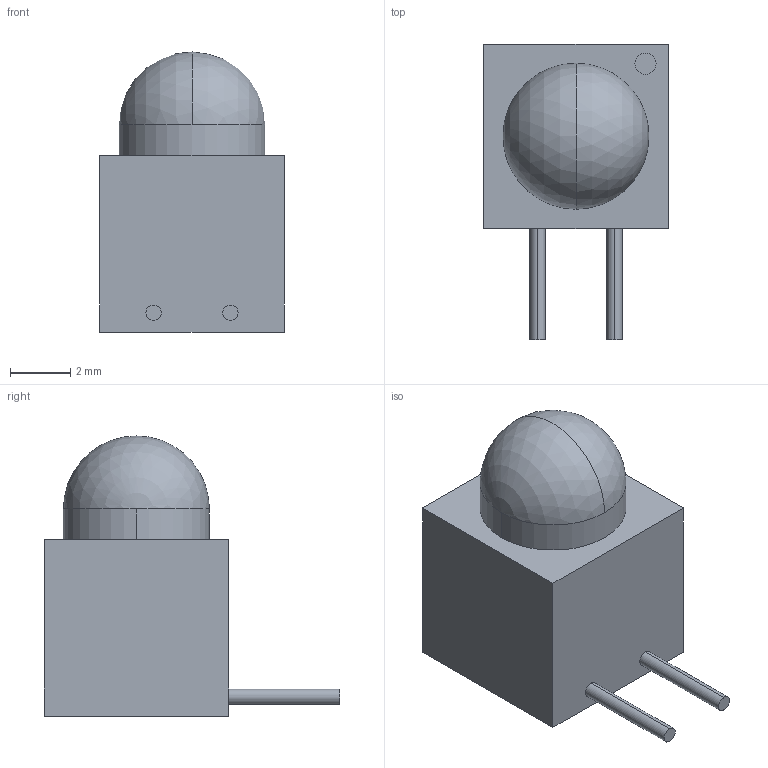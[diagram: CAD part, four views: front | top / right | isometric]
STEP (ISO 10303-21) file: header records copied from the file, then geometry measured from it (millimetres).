
FILE_DESCRIPTION (( 'STEP AP214' ), '1' );
FILE_NAME ('550-0405.STEP', '2013-04-01T10:29:12', ( 'Tester2' ), ( '' ), 'SwSTEP 2.0', 'SolidWorks 2012', '' );
FILE_SCHEMA (( 'AUTOMOTIVE_DESIGN' ));
Length unit declared in the file: millimetre
Products named in the file (1): 550-0405
Bounding box: 6.1 x 9.78 x 9.27 mm (x, y, z)
Volume: 266.7 mm3; surface area: 263.3 mm2
Topology: 1 solids, 1 shells, 19 faces, 42 edges, 27 vertices
Faces by surface type: plane 9, cylinder 8, sphere 2
Entity records: 666 total; most frequent: DIRECTION 100, CARTESIAN_POINT 87, ORIENTED_EDGE 80, EDGE_CURVE 40, AXIS2_PLACEMENT_3D 40, VERTEX_POINT 27, EDGE_LOOP 23, CIRCLE 20
